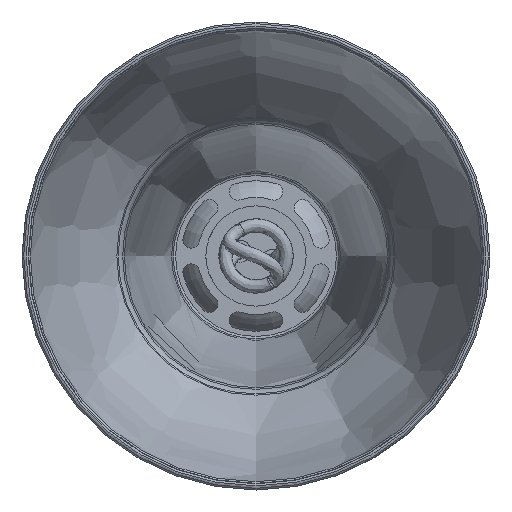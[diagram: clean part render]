
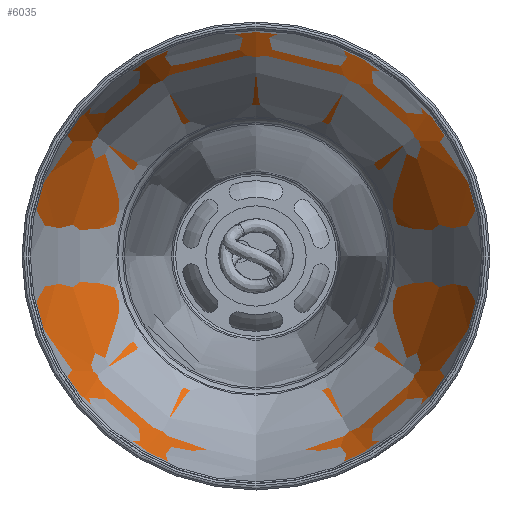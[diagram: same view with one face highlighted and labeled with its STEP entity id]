
A CAD part, front view. The second image highlights one B-rep face of the part: STEP entity #6035.
In plain terms, the highlighted free-form (B-spline) face has degree [3, 3] with [5, 7] control points.
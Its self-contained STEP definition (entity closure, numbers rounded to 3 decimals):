
#647 = CARTESIAN_POINT ( 'NONE',  ( -164.844, -167.348, -246.692 ) ) ;
#689 = CARTESIAN_POINT ( 'NONE',  ( -149.09, -103.192, 25.308 ) ) ;
#726 = CARTESIAN_POINT ( 'NONE',  ( -112.1, -53.645, 191.82 ) ) ;
#1541 = CARTESIAN_POINT ( 'NONE',  ( 107.156, -167.348, 25.308 ) ) ;
#1579 = CARTESIAN_POINT ( 'NONE',  ( 91.401, -103.192, -215.183 ) ) ;
#1620 = CARTESIAN_POINT ( 'NONE',  ( -112.1, -53.645, -141.203 ) ) ;
#1898 = CARTESIAN_POINT ( 'NONE',  ( -28.844, -167.348, 25.308 ) ) ;
#2429 = CARTESIAN_POINT ( 'NONE',  ( 104.581, -144.725, 292.158 ) ) ;
#2475 = CARTESIAN_POINT ( 'NONE',  ( 66.685, -68.275, 25.308 ) ) ;
#2512 = CARTESIAN_POINT ( 'NONE',  ( 54.412, -53.645, 25.308 ) ) ;
#2661 = EDGE_LOOP ( 'NONE', ( #6408 ) ) ;
#2802 = DIRECTION ( 'NONE',  ( 0., 0., -1. ) ) ;
#3291 = CARTESIAN_POINT ( 'NONE',  ( 107.156, -167.348, 297.308 ) ) ;
#3328 = CARTESIAN_POINT ( 'NONE',  ( -162.269, -144.725, 25.308 ) ) ;
#3363 = CARTESIAN_POINT ( 'NONE',  ( -124.373, -68.275, 216.367 ) ) ;
#3647 = AXIS2_PLACEMENT_3D ( 'NONE', #1898, #8108, #2802 ) ;
#4211 = CARTESIAN_POINT ( 'NONE',  ( 104.581, -144.725, -241.541 ) ) ;
#4252 = CARTESIAN_POINT ( 'NONE',  ( -124.373, -68.275, -165.75 ) ) ;
#4330 = DIRECTION ( 'NONE',  ( 0., -1., 0. ) ) ;
#5063 = CARTESIAN_POINT ( 'NONE',  ( 107.156, -167.348, 25.308 ) ) ;
#5109 = CARTESIAN_POINT ( 'NONE',  ( 91.401, -103.192, 25.308 ) ) ;
#5141 = CARTESIAN_POINT ( 'NONE',  ( 66.685, -68.275, 25.308 ) ) ;
#5374 = CIRCLE ( 'NONE', #3647, 136. ) ;
#5654 = CIRCLE ( 'NONE', #6088, 83.256 ) ;
#5936 = CARTESIAN_POINT ( 'NONE',  ( -28.844, -167.348, -110.692 ) ) ;
#5963 = CARTESIAN_POINT ( 'NONE',  ( -164.844, -167.348, 25.308 ) ) ;
#5999 = CARTESIAN_POINT ( 'NONE',  ( -149.09, -103.192, 265.799 ) ) ;
#6035 = ADVANCED_FACE ( 'Defeatured_2_2', ( #6502, #11210 ), #7642, .T. ) ;
#6042 = CARTESIAN_POINT ( 'NONE',  ( 54.412, -53.645, 191.82 ) ) ;
#6088 = AXIS2_PLACEMENT_3D ( 'NONE', #9614, #4330, #10499 ) ;
#6365 = ORIENTED_EDGE ( 'NONE', *, *, #9991, .T. ) ;
#6408 = ORIENTED_EDGE ( 'NONE', *, *, #7671, .F. ) ;
#6502 = FACE_OUTER_BOUND ( 'NONE', #7090, .T. ) ;
#6841 = CARTESIAN_POINT ( 'NONE',  ( 107.156, -167.348, -246.692 ) ) ;
#6886 = CARTESIAN_POINT ( 'NONE',  ( -149.09, -103.192, -215.183 ) ) ;
#6918 = CARTESIAN_POINT ( 'NONE',  ( -112.1, -53.645, 25.308 ) ) ;
#7090 = EDGE_LOOP ( 'NONE', ( #6365 ) ) ;
#7642 =( BOUNDED_SURFACE ( )  B_SPLINE_SURFACE ( 3, 3, ( 
 ( #5063, #3291, #11223, #5963, #647, #6841, #1541 ),
 ( #7744, #2429, #8622, #3328, #9497, #4211, #10375 ),
 ( #5109, #11265, #5999, #689, #6886, #1579, #7776 ),
 ( #2475, #8665, #3363, #9527, #4252, #10413, #5141 ),
 ( #11302, #6042, #726, #6918, #1620, #7814, #2512 ) ),
 .UNSPECIFIED., .F., .T., .T. ) 
 B_SPLINE_SURFACE_WITH_KNOTS ( ( 4, 1, 4 ),
 ( 4, 3, 4 ),
 ( 0.038, 0.561, 1. ),
 ( 0., 0.5, 1. ),
 .UNSPECIFIED. ) 
 GEOMETRIC_REPRESENTATION_ITEM ( )  RATIONAL_B_SPLINE_SURFACE ( (
 ( 1., 0.333, 0.333, 1., 0.333, 0.333, 1.),
 ( 1., 0.333, 0.333, 1., 0.333, 0.333, 1.),
 ( 1., 0.333, 0.333, 1., 0.333, 0.333, 1.),
 ( 1., 0.333, 0.333, 1., 0.333, 0.333, 1.),
 ( 1., 0.333, 0.333, 1., 0.333, 0.333, 1.) ) ) 
 REPRESENTATION_ITEM ( '' )  SURFACE ( )  );
#7671 = EDGE_CURVE ( 'NONE', #10855, #10855, #5374, .T. ) ;
#7744 = CARTESIAN_POINT ( 'NONE',  ( 104.581, -144.725, 25.308 ) ) ;
#7776 = CARTESIAN_POINT ( 'NONE',  ( 91.401, -103.192, 25.308 ) ) ;
#7814 = CARTESIAN_POINT ( 'NONE',  ( 54.412, -53.645, -141.203 ) ) ;
#8108 = DIRECTION ( 'NONE',  ( 0., -1., 0. ) ) ;
#8622 = CARTESIAN_POINT ( 'NONE',  ( -162.269, -144.725, 292.158 ) ) ;
#8665 = CARTESIAN_POINT ( 'NONE',  ( 66.685, -68.275, 216.367 ) ) ;
#9497 = CARTESIAN_POINT ( 'NONE',  ( -162.269, -144.725, -241.541 ) ) ;
#9527 = CARTESIAN_POINT ( 'NONE',  ( -124.373, -68.275, 25.308 ) ) ;
#9614 = CARTESIAN_POINT ( 'NONE',  ( -28.844, -53.645, 25.308 ) ) ;
#9991 = EDGE_CURVE ( 'NONE', #10321, #10321, #5654, .T. ) ;
#10321 = VERTEX_POINT ( 'NONE', #10349 ) ;
#10349 = CARTESIAN_POINT ( 'NONE',  ( -28.844, -53.645, -57.948 ) ) ;
#10375 = CARTESIAN_POINT ( 'NONE',  ( 104.581, -144.725, 25.308 ) ) ;
#10413 = CARTESIAN_POINT ( 'NONE',  ( 66.685, -68.275, -165.75 ) ) ;
#10499 = DIRECTION ( 'NONE',  ( 0., 0., -1. ) ) ;
#10855 = VERTEX_POINT ( 'NONE', #5936 ) ;
#11210 = FACE_OUTER_BOUND ( 'NONE', #2661, .T. ) ;
#11223 = CARTESIAN_POINT ( 'NONE',  ( -164.844, -167.348, 297.308 ) ) ;
#11265 = CARTESIAN_POINT ( 'NONE',  ( 91.401, -103.192, 265.799 ) ) ;
#11302 = CARTESIAN_POINT ( 'NONE',  ( 54.412, -53.645, 25.308 ) ) ;
